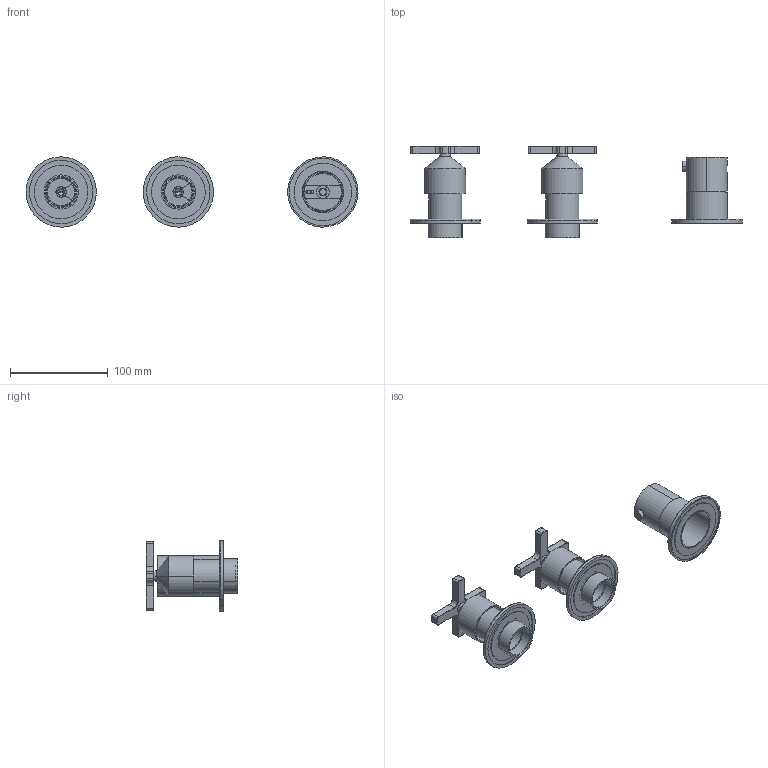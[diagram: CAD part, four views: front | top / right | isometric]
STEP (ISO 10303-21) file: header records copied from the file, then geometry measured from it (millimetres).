
FILE_DESCRIPTION (( 'STEP AP203' ), '1' );
FILE_NAME ('GHN41.STEP', '2022-01-20T10:38:02', ( '' ), ( '' ), 'SwSTEP 2.0', 'SolidWorks 2021', '' );
FILE_SCHEMA (( 'CONFIG_CONTROL_DESIGN' ));
Length unit declared in the file: millimetre
Products named in the file (11): C47.00.0023.01; C39.00.0056.01; C24.2073.00.0; C11.14.0009; AS811_00; C39.00.0003; GHN41; C39.00.0010; C24.0976.00.0; C24.2050.00.0; C24.2459.00.0
Assembly tree (14 placements, depth 3):
  GHN41
    C39.00.0010
    C24.2459.00.0  x2
    AS811_00  x2
      C24.2073.00.0
      C24.2050.00.0
    C47.00.0023.01  x2
    C11.14.0009
    C39.00.0056.01
    C24.0976.00.0  x2
    C39.00.0003
Bounding box: 339.96 x 94 x 71.97 mm (x, y, z)
Volume: 142047.9 mm3; surface area: 104905.5 mm2
Topology: 17 solids, 17 shells, 748 faces, 1844 edges, 1163 vertices
Faces by surface type: plane 364, cylinder 244, cone 70, torus 58, bspline 12
Entity records: 15710 total; most frequent: CARTESIAN_POINT 3256, DIRECTION 2448, ORIENTED_EDGE 2284, EDGE_CURVE 1142, AXIS2_PLACEMENT_3D 922, VERTEX_POINT 727, LINE 604, VECTOR 604
